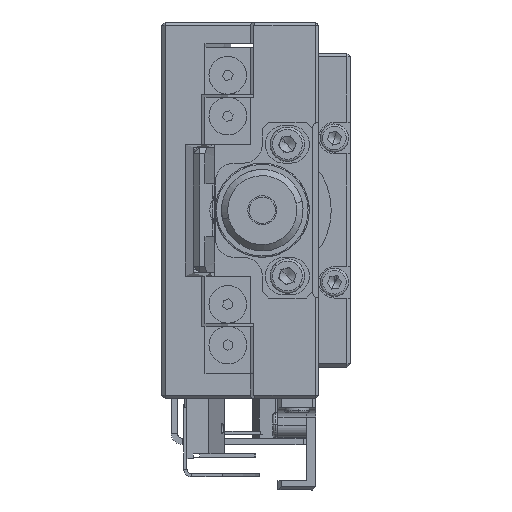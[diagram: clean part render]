
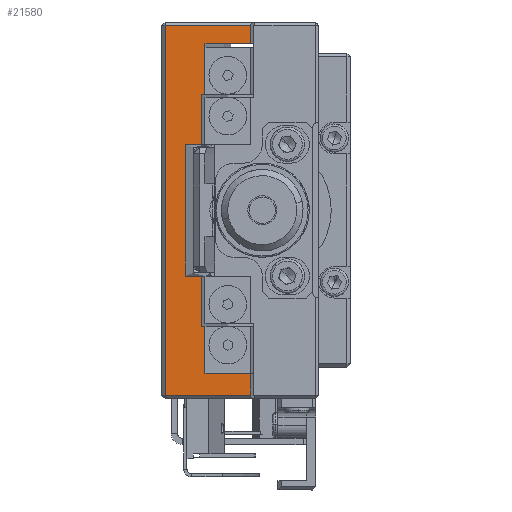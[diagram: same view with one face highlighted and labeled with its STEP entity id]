
A CAD part, left-side view. The second image highlights one B-rep face of the part: STEP entity #21580.
In plain terms, the highlighted planar face has unit normal (-1, 0, 0).
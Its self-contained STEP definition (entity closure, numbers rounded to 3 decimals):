
#8 = EDGE_CURVE ( 'NONE', #1252, #17837, #6445, .T. ) ;
#776 = EDGE_CURVE ( 'NONE', #17837, #40914, #11253, .T. ) ;
#1252 = VERTEX_POINT ( 'NONE', #30112 ) ;
#1366 = VECTOR ( 'NONE', #21335, 1000. ) ;
#1772 = CARTESIAN_POINT ( 'NONE',  ( 987.491, 1038.284, 999.227 ) ) ;
#1794 = EDGE_CURVE ( 'NONE', #47142, #24924, #44341, .T. ) ;
#2514 = LINE ( 'NONE', #3023, #26693 ) ;
#2763 = DIRECTION ( 'NONE',  ( 0., 1., 0. ) ) ;
#2833 = CARTESIAN_POINT ( 'NONE',  ( 987.491, 1035.034, 1039.227 ) ) ;
#3023 = CARTESIAN_POINT ( 'NONE',  ( 987.491, 1035.034, 1018.227 ) ) ;
#3865 = CARTESIAN_POINT ( 'NONE',  ( 987.491, 1031.915, 1054.727 ) ) ;
#4497 = DIRECTION ( 'NONE',  ( 0., 0., 1. ) ) ;
#4745 = VERTEX_POINT ( 'NONE', #6958 ) ;
#4776 = VECTOR ( 'NONE', #32176, 1000. ) ;
#4833 = DIRECTION ( 'NONE',  ( 0., 0., 1. ) ) ;
#6445 = LINE ( 'NONE', #38601, #36274 ) ;
#6958 = CARTESIAN_POINT ( 'NONE',  ( 987.491, 1032.434, 1010.227 ) ) ;
#9254 = VECTOR ( 'NONE', #30143, 1000. ) ;
#9384 = DIRECTION ( 'NONE',  ( 0., -1., 0. ) ) ;
#9544 = CARTESIAN_POINT ( 'NONE',  ( 987.491, 1024.661, 1002.727 ) ) ;
#9774 = ORIENTED_EDGE ( 'NONE', *, *, #8, .T. ) ;
#10326 = EDGE_CURVE ( 'NONE', #17165, #35153, #18395, .T. ) ;
#10415 = VECTOR ( 'NONE', #9384, 1000. ) ;
#10873 = CARTESIAN_POINT ( 'NONE',  ( 987.491, 1024.661, 999.227 ) ) ;
#11253 = LINE ( 'NONE', #46815, #51115 ) ;
#12176 = VECTOR ( 'NONE', #46882, 1000. ) ;
#12182 = EDGE_CURVE ( 'NONE', #4745, #38968, #40334, .T. ) ;
#12218 = PLANE ( 'NONE',  #18807 ) ;
#12864 = VECTOR ( 'NONE', #39432, 1000. ) ;
#12869 = EDGE_CURVE ( 'NONE', #35479, #28823, #2514, .T. ) ;
#13478 = LINE ( 'NONE', #37286, #37942 ) ;
#13930 = VECTOR ( 'NONE', #38269, 1000. ) ;
#13935 = VERTEX_POINT ( 'NONE', #16748 ) ;
#14221 = ORIENTED_EDGE ( 'NONE', *, *, #1794, .T. ) ;
#16122 = FACE_OUTER_BOUND ( 'NONE', #39085, .T. ) ;
#16329 = CARTESIAN_POINT ( 'NONE',  ( 987.491, 1031.915, 1047.227 ) ) ;
#16480 = LINE ( 'NONE', #20423, #4776 ) ;
#16530 = ORIENTED_EDGE ( 'NONE', *, *, #12182, .T. ) ;
#16748 = CARTESIAN_POINT ( 'NONE',  ( 987.491, 1031.915, 1002.727 ) ) ;
#17165 = VERTEX_POINT ( 'NONE', #16329 ) ;
#17409 = DIRECTION ( 'NONE',  ( 0., 0., -1. ) ) ;
#17837 = VERTEX_POINT ( 'NONE', #21295 ) ;
#18395 = LINE ( 'NONE', #25193, #9254 ) ;
#18807 = AXIS2_PLACEMENT_3D ( 'NONE', #32080, #48026, #21100 ) ;
#19146 = VECTOR ( 'NONE', #45758, 1000. ) ;
#19274 = VECTOR ( 'NONE', #4833, 1000. ) ;
#20302 = ORIENTED_EDGE ( 'NONE', *, *, #776, .T. ) ;
#20423 = CARTESIAN_POINT ( 'NONE',  ( 987.491, 1035.034, 1018.227 ) ) ;
#20611 = EDGE_CURVE ( 'NONE', #13935, #47123, #38524, .T. ) ;
#21100 = DIRECTION ( 'NONE',  ( 0., 0., -1. ) ) ;
#21220 = DIRECTION ( 'NONE',  ( 0., -1., 0. ) ) ;
#21295 = CARTESIAN_POINT ( 'NONE',  ( 987.491, 1038.284, 1058.227 ) ) ;
#21335 = DIRECTION ( 'NONE',  ( 0., -1., 0. ) ) ;
#21507 = CARTESIAN_POINT ( 'NONE',  ( 987.491, 1013.784, 1055.227 ) ) ;
#21524 = VERTEX_POINT ( 'NONE', #43599 ) ;
#21580 = ADVANCED_FACE ( 'NONE', ( #16122 ), #12218, .F. ) ;
#21686 = CARTESIAN_POINT ( 'NONE',  ( 987.491, 1032.434, 1010.227 ) ) ;
#22064 = LINE ( 'NONE', #38010, #12176 ) ;
#22118 = ORIENTED_EDGE ( 'NONE', *, *, #10326, .F. ) ;
#22141 = EDGE_CURVE ( 'NONE', #35153, #50615, #13478, .T. ) ;
#22352 = EDGE_CURVE ( 'NONE', #21524, #17165, #47537, .T. ) ;
#23135 = ORIENTED_EDGE ( 'NONE', *, *, #22141, .F. ) ;
#23278 = DIRECTION ( 'NONE',  ( 0., 0., -1. ) ) ;
#23408 = DIRECTION ( 'NONE',  ( 0., 0., 1. ) ) ;
#23416 = CARTESIAN_POINT ( 'NONE',  ( 987.491, 1035.034, 1039.227 ) ) ;
#24766 = ORIENTED_EDGE ( 'NONE', *, *, #24849, .F. ) ;
#24849 = EDGE_CURVE ( 'NONE', #13935, #24924, #44885, .T. ) ;
#24924 = VERTEX_POINT ( 'NONE', #9544 ) ;
#25193 = CARTESIAN_POINT ( 'NONE',  ( 987.491, 1013.784, 1047.227 ) ) ;
#26294 = CARTESIAN_POINT ( 'NONE',  ( 987.491, 1024.661, 1055.227 ) ) ;
#26693 = VECTOR ( 'NONE', #23408, 1000. ) ;
#27435 = ORIENTED_EDGE ( 'NONE', *, *, #49978, .T. ) ;
#28823 = VERTEX_POINT ( 'NONE', #23416 ) ;
#29025 = EDGE_CURVE ( 'NONE', #40914, #47142, #44770, .T. ) ;
#29297 = LINE ( 'NONE', #21686, #10415 ) ;
#29383 = ORIENTED_EDGE ( 'NONE', *, *, #37675, .T. ) ;
#30019 = VECTOR ( 'NONE', #4497, 1000. ) ;
#30112 = CARTESIAN_POINT ( 'NONE',  ( 987.491, 1024.661, 1058.227 ) ) ;
#30143 = DIRECTION ( 'NONE',  ( 0., 1., 0. ) ) ;
#30739 = CARTESIAN_POINT ( 'NONE',  ( 987.491, 1031.915, 1010.227 ) ) ;
#31661 = ORIENTED_EDGE ( 'NONE', *, *, #47535, .T. ) ;
#31858 = CARTESIAN_POINT ( 'NONE',  ( 987.491, 1032.434, 1039.227 ) ) ;
#32003 = VERTEX_POINT ( 'NONE', #26294 ) ;
#32080 = CARTESIAN_POINT ( 'NONE',  ( 987.491, 1038.784, 1058.727 ) ) ;
#32176 = DIRECTION ( 'NONE',  ( 0., -1., 0. ) ) ;
#32550 = CARTESIAN_POINT ( 'NONE',  ( 987.491, 1024.661, 998.727 ) ) ;
#32718 = CARTESIAN_POINT ( 'NONE',  ( 987.491, 1038.784, 999.227 ) ) ;
#32745 = DIRECTION ( 'NONE',  ( 0., -1., 0. ) ) ;
#32833 = CARTESIAN_POINT ( 'NONE',  ( 987.491, 1031.915, 1002.727 ) ) ;
#32891 = ORIENTED_EDGE ( 'NONE', *, *, #22352, .F. ) ;
#35153 = VERTEX_POINT ( 'NONE', #45030 ) ;
#35479 = VERTEX_POINT ( 'NONE', #37374 ) ;
#35877 = ORIENTED_EDGE ( 'NONE', *, *, #29025, .T. ) ;
#35891 = CARTESIAN_POINT ( 'NONE',  ( 987.491, 1032.434, 1010.227 ) ) ;
#36274 = VECTOR ( 'NONE', #2763, 1000. ) ;
#36447 = ORIENTED_EDGE ( 'NONE', *, *, #50213, .F. ) ;
#36783 = ORIENTED_EDGE ( 'NONE', *, *, #20611, .T. ) ;
#37286 = CARTESIAN_POINT ( 'NONE',  ( 987.491, 1032.434, 1047.227 ) ) ;
#37374 = CARTESIAN_POINT ( 'NONE',  ( 987.491, 1035.034, 1018.227 ) ) ;
#37675 = EDGE_CURVE ( 'NONE', #28823, #50615, #42859, .T. ) ;
#37942 = VECTOR ( 'NONE', #17409, 1000. ) ;
#38010 = CARTESIAN_POINT ( 'NONE',  ( 987.491, 1024.661, 998.727 ) ) ;
#38269 = DIRECTION ( 'NONE',  ( 0., 0., 1. ) ) ;
#38524 = LINE ( 'NONE', #38773, #13930 ) ;
#38601 = CARTESIAN_POINT ( 'NONE',  ( 987.491, 1038.784, 1058.227 ) ) ;
#38773 = CARTESIAN_POINT ( 'NONE',  ( 987.491, 1031.915, 1002.727 ) ) ;
#38968 = VERTEX_POINT ( 'NONE', #41783 ) ;
#39085 = EDGE_LOOP ( 'NONE', ( #31661, #9774, #20302, #35877, #14221, #24766, #36783, #40358, #16530, #36447, #49970, #29383, #23135, #22118, #32891, #27435 ) ) ;
#39432 = DIRECTION ( 'NONE',  ( 0., 0., -1. ) ) ;
#40334 = LINE ( 'NONE', #35891, #30019 ) ;
#40358 = ORIENTED_EDGE ( 'NONE', *, *, #46544, .F. ) ;
#40873 = LINE ( 'NONE', #21507, #45771 ) ;
#40914 = VERTEX_POINT ( 'NONE', #1772 ) ;
#41783 = CARTESIAN_POINT ( 'NONE',  ( 987.491, 1032.434, 1018.227 ) ) ;
#42859 = LINE ( 'NONE', #2833, #19146 ) ;
#43599 = CARTESIAN_POINT ( 'NONE',  ( 987.491, 1031.915, 1055.227 ) ) ;
#44341 = LINE ( 'NONE', #32550, #19274 ) ;
#44770 = LINE ( 'NONE', #32718, #51350 ) ;
#44885 = LINE ( 'NONE', #32833, #1366 ) ;
#45030 = CARTESIAN_POINT ( 'NONE',  ( 987.491, 1032.434, 1047.227 ) ) ;
#45758 = DIRECTION ( 'NONE',  ( 0., -1., 0. ) ) ;
#45771 = VECTOR ( 'NONE', #32745, 1000. ) ;
#46544 = EDGE_CURVE ( 'NONE', #4745, #47123, #29297, .T. ) ;
#46815 = CARTESIAN_POINT ( 'NONE',  ( 987.491, 1038.284, 1058.727 ) ) ;
#46882 = DIRECTION ( 'NONE',  ( 0., 0., 1. ) ) ;
#47123 = VERTEX_POINT ( 'NONE', #30739 ) ;
#47142 = VERTEX_POINT ( 'NONE', #10873 ) ;
#47535 = EDGE_CURVE ( 'NONE', #32003, #1252, #22064, .T. ) ;
#47537 = LINE ( 'NONE', #3865, #12864 ) ;
#48026 = DIRECTION ( 'NONE',  ( 1., 0., 0. ) ) ;
#49970 = ORIENTED_EDGE ( 'NONE', *, *, #12869, .T. ) ;
#49978 = EDGE_CURVE ( 'NONE', #21524, #32003, #40873, .T. ) ;
#50213 = EDGE_CURVE ( 'NONE', #35479, #38968, #16480, .T. ) ;
#50615 = VERTEX_POINT ( 'NONE', #31858 ) ;
#51115 = VECTOR ( 'NONE', #23278, 1000. ) ;
#51350 = VECTOR ( 'NONE', #21220, 1000. ) ;
